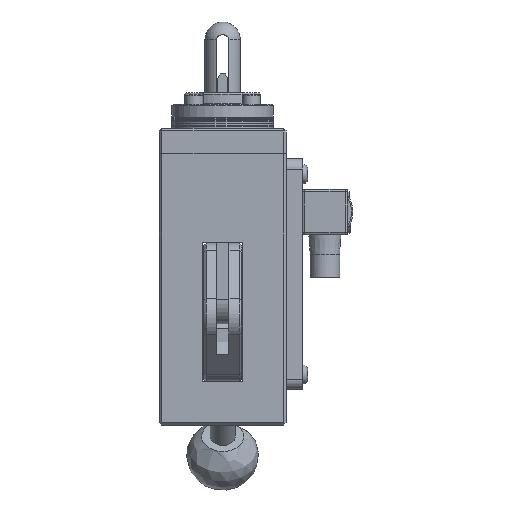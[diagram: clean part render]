
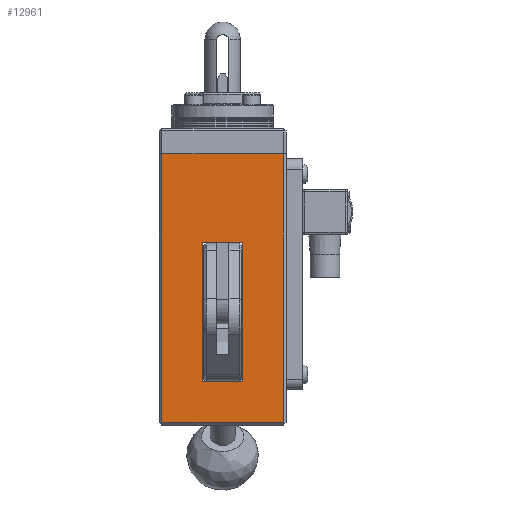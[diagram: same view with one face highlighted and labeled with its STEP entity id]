
A CAD part, left-side view. The second image highlights one B-rep face of the part: STEP entity #12961.
In plain terms, the highlighted planar face has unit normal (-1, 0, 0).
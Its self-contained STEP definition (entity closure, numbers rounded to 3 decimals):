
#378=FACE_BOUND('',#2020,.T.);
#773=PLANE('',#14089);
#1207=FACE_OUTER_BOUND('',#2019,.T.);
#2019=EDGE_LOOP('',(#9414,#9415,#9416,#9417));
#2020=EDGE_LOOP('',(#9418,#9419,#9420,#9421));
#2850=LINE('',#19932,#3788);
#2857=LINE('',#19962,#3795);
#2883=LINE('',#20041,#3821);
#2886=LINE('',#20047,#3824);
#2928=LINE('',#20261,#3866);
#2936=LINE('',#20283,#3874);
#2948=LINE('',#20323,#3886);
#2949=LINE('',#20325,#3887);
#3788=VECTOR('',#15737,10.);
#3795=VECTOR('',#15766,10.);
#3821=VECTOR('',#15842,10.);
#3824=VECTOR('',#15847,10.);
#3866=VECTOR('',#16079,10.);
#3874=VECTOR('',#16101,10.);
#3886=VECTOR('',#16145,10.);
#3887=VECTOR('',#16148,10.);
#5613=VERTEX_POINT('',#19929);
#5614=VERTEX_POINT('',#19931);
#5625=VERTEX_POINT('',#19959);
#5626=VERTEX_POINT('',#19961);
#5654=VERTEX_POINT('',#20039);
#5656=VERTEX_POINT('',#20045);
#5733=VERTEX_POINT('',#20260);
#5740=VERTEX_POINT('',#20282);
#6972=EDGE_CURVE('',#5614,#5613,#2850,.T.);
#6986=EDGE_CURVE('',#5625,#5626,#2857,.T.);
#7023=EDGE_CURVE('',#5654,#5625,#2883,.T.);
#7026=EDGE_CURVE('',#5656,#5654,#2886,.T.);
#7129=EDGE_CURVE('',#5733,#5614,#2928,.T.);
#7139=EDGE_CURVE('',#5740,#5733,#2936,.T.);
#7157=EDGE_CURVE('',#5613,#5740,#2948,.T.);
#7158=EDGE_CURVE('',#5626,#5656,#2949,.T.);
#9414=ORIENTED_EDGE('',*,*,#7023,.F.);
#9415=ORIENTED_EDGE('',*,*,#7026,.F.);
#9416=ORIENTED_EDGE('',*,*,#7158,.F.);
#9417=ORIENTED_EDGE('',*,*,#6986,.F.);
#9418=ORIENTED_EDGE('',*,*,#7129,.T.);
#9419=ORIENTED_EDGE('',*,*,#6972,.T.);
#9420=ORIENTED_EDGE('',*,*,#7157,.T.);
#9421=ORIENTED_EDGE('',*,*,#7139,.T.);
#12961=ADVANCED_FACE('',(#1207,#378),#773,.T.);
#14089=AXIS2_PLACEMENT_3D('',#20324,#16146,#16147);
#15737=DIRECTION('',(0.,0.,1.));
#15766=DIRECTION('',(0.,0.,1.));
#15842=DIRECTION('',(0.,1.,0.));
#15847=DIRECTION('',(0.,0.,-1.));
#16079=DIRECTION('',(0.,1.,0.));
#16101=DIRECTION('',(0.,0.,-1.));
#16145=DIRECTION('',(0.,-1.,0.));
#16146=DIRECTION('center_axis',(-1.,0.,0.));
#16147=DIRECTION('ref_axis',(0.,-1.,0.));
#16148=DIRECTION('',(0.,-1.,0.));
#19929=CARTESIAN_POINT('',(-36.509,7.434,18.5));
#19931=CARTESIAN_POINT('',(-36.509,7.434,-36.5));
#19932=CARTESIAN_POINT('',(-36.509,7.434,-45.));
#19959=CARTESIAN_POINT('',(-36.509,23.434,-52.5));
#19961=CARTESIAN_POINT('',(-36.509,23.434,53.5));
#19962=CARTESIAN_POINT('',(-36.509,23.434,-53.5));
#20039=CARTESIAN_POINT('',(-36.509,-24.566,-52.5));
#20041=CARTESIAN_POINT('',(-36.509,-6.816,-52.5));
#20045=CARTESIAN_POINT('',(-36.509,-24.566,53.5));
#20047=CARTESIAN_POINT('',(-36.509,-24.566,-53.5));
#20260=CARTESIAN_POINT('',(-36.509,-8.566,-36.5));
#20261=CARTESIAN_POINT('',(-36.509,-0.566,-36.5));
#20282=CARTESIAN_POINT('',(-36.509,-8.566,18.5));
#20283=CARTESIAN_POINT('',(-36.509,-8.566,-45.));
#20323=CARTESIAN_POINT('',(-36.509,-4.566,18.5));
#20324=CARTESIAN_POINT('Origin',(-36.509,-0.566,-53.5));
#20325=CARTESIAN_POINT('',(-36.509,-0.566,53.5));
